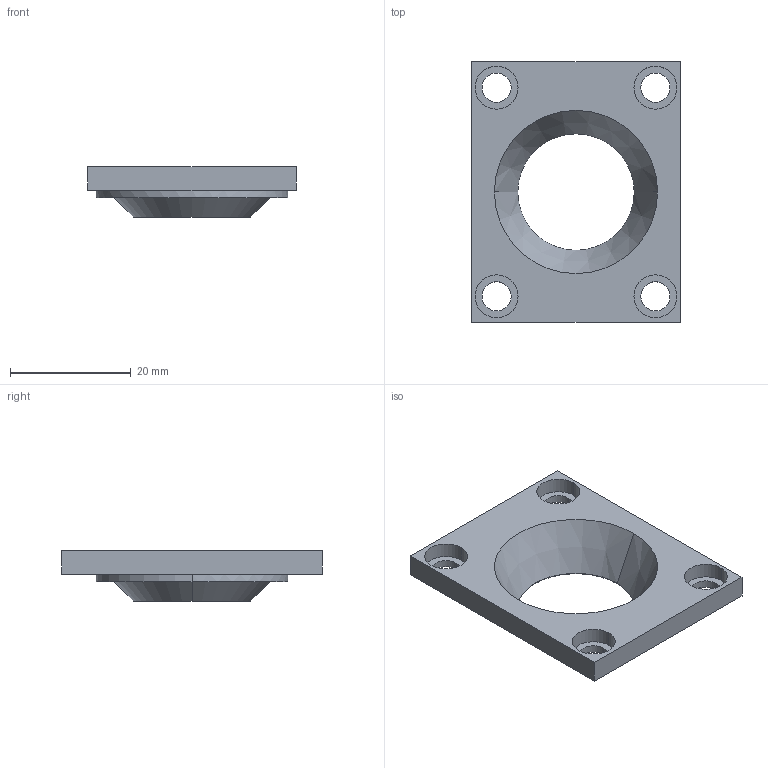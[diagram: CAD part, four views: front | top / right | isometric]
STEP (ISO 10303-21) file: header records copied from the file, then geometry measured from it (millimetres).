
FILE_DESCRIPTION(('Creo Elements/Direct Modeling STEP Export'),'2;1');
FILE_NAME('003-1320(2) (Ti cell retainer).stp','2018-05-08T11:24:24',(''),(''),'PTC Creo Elements/Direct Modeling STEP processor for AP214 (Solid Model)','PTC Creo Elements/Direct Modeling 19.0E 27-Jun-2016 (C) Parametric Technology GmbH','');
FILE_SCHEMA(('AUTOMOTIVE_DESIGN { 1 0 10303 214 1 1 1 1 }'));
Length unit declared in the file: millimetre
Products named in the file (1): cg_cell_ret_nu
Bounding box: 34.54 x 43.18 x 8.28 mm (x, y, z)
Volume: 3982.1 mm3; surface area: 3754.1 mm2
Topology: 1 solids, 1 shells, 34 faces, 79 edges, 53 vertices
Faces by surface type: cylinder 18, plane 12, cone 4
Entity records: 1051 total; most frequent: ORIENTED_EDGE 158, DIRECTION 148, CARTESIAN_POINT 144, EDGE_CURVE 79, AXIS2_PLACEMENT_3D 57, VERTEX_POINT 53, EDGE_LOOP 50, VECTOR 34
